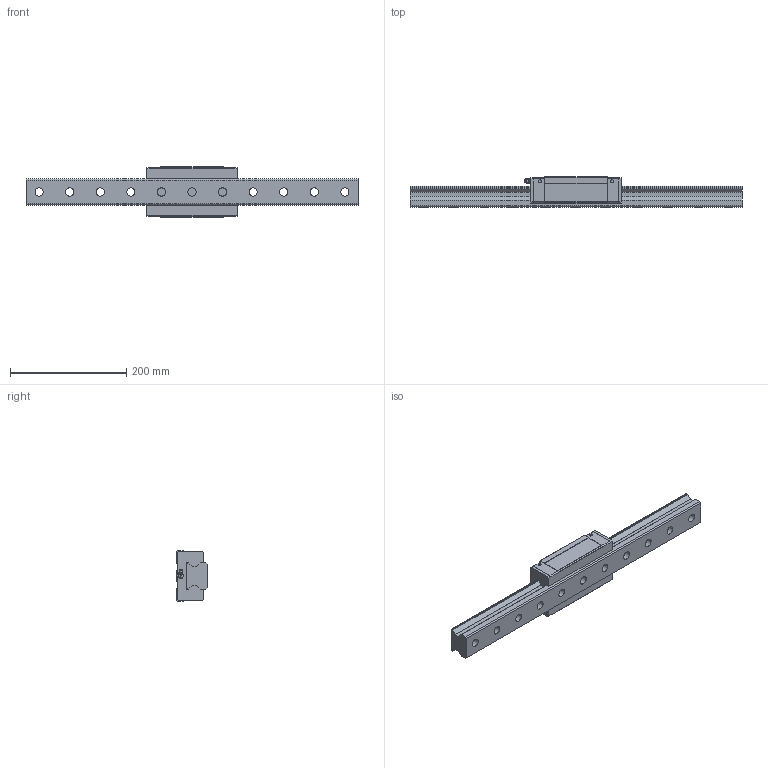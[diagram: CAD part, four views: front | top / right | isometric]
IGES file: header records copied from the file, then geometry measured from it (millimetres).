
Start section: Data from Parasolid IGES Translator 26.0.171, Copyright(c) 2006 Siemens PLM Software. All Rights Reserved.
Global section: file name: SRN45R1SS-570L_G22-5_0_B-M6F_207-5_0_0_0_1.igs; native system: By Siemens PLM Incorporated; preprocessor: XPlus GENERIC/IGES 26.0.171; author: Noname; organization: Noname; date: 20240523.105637; units: millimetre
Bounding box: 570 x 52 x 86 mm (x, y, z)
Surface area: 175855.6 mm2 (no closed solid volume)
Topology: 0 solids, 0 shells, 224 faces, 1170 edges, 1087 vertices
Faces by surface type: extrusion 129, revolution 95
